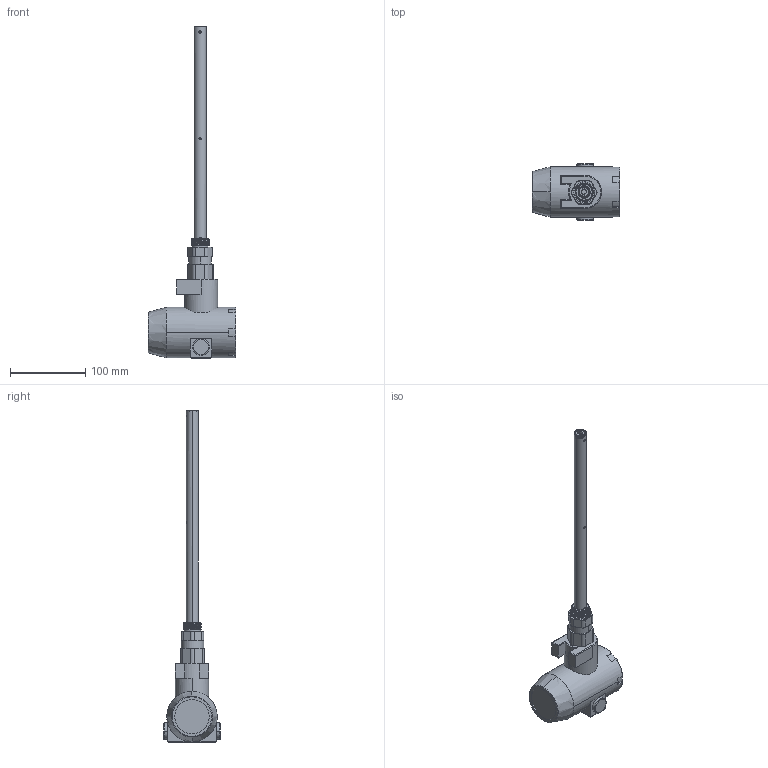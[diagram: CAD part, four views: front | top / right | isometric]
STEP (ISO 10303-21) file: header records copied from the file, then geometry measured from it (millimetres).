
FILE_DESCRIPTION((''),'2;1');
FILE_NAME('ASM0016_ASM','2026-01-26T11:49:00',('28740194'),(''),'CREO PARAMETRIC BY PTC INC, 2024063','CREO PARAMETRIC BY PTC INC, 2024063','');
FILE_SCHEMA(('CONFIG_CONTROL_DESIGN'));
Length unit declared in the file: millimetre
Products named in the file (6): 22233; 1112; 0007; 160001; 1122233; ASM0016_ASM
Assembly tree (5 placements, depth 2):
  ASM0016_ASM
    22233
    1112
    0007
    160001
    1122233
Bounding box: 117 x 75 x 441.86 mm (x, y, z)
Volume: 530493.3 mm3; surface area: 80303.9 mm2
Topology: 5 solids, 5 shells, 321 faces, 881 edges, 584 vertices
Faces by surface type: cylinder 154, plane 86, bspline 51, torus 22, cone 8
Entity records: 25321 total; most frequent: CARTESIAN_POINT 17595, ORIENTED_EDGE 1762, DIRECTION 1321, EDGE_CURVE 881, VERTEX_POINT 584, AXIS2_PLACEMENT_3D 499, EDGE_LOOP 353, B_SPLINE_CURVE_WITH_KNOTS 340
